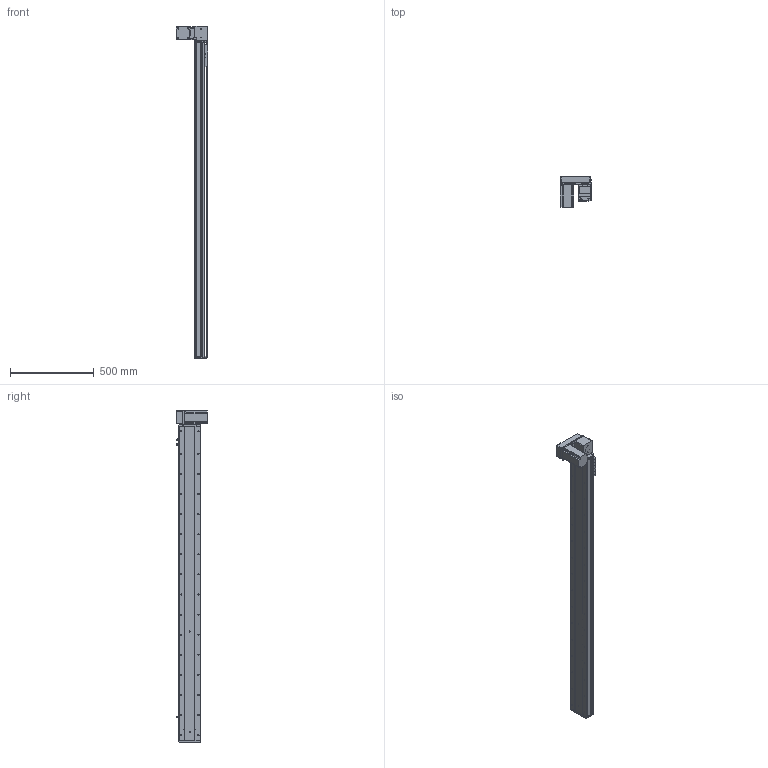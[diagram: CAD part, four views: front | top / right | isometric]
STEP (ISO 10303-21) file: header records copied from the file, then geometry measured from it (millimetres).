
FILE_DESCRIPTION (( 'STEP AP214' ), '1' );
FILE_NAME ('KSD130B-S1650-MRD-CM.STEP', '2019-11-16T01:57:07', ( '微软用户' ), ( '微软中国' ), 'SwSTEP 2.0', 'SolidWorks 2014', '' );
FILE_SCHEMA (( 'AUTOMOTIVE_DESIGN' ));
Length unit declared in the file: millimetre
Products named in the file (12): 130宽马达安装板同步带右-改镜向_默认<按加工>; 130宽马达安装板同步带半封闭; 130宽同步带安装座半封闭; 130宽端盖同步带半封闭; 130宽底板半封闭同步带-1650行程; KSD130B-S1650-MRD-CM; 130宽模组保护罩上下左右折-同步带; 台达ECMA－C20807AS伺服电机; 130宽模组马达安装板连板上下折丝杆同步带; 覜茼え100遵圉猾敕; U倰嫖萇EEㄜSX672; 130宽盖板半封闭同步带-1650行程
Assembly tree (13 placements, depth 2):
  KSD130B-S1650-MRD-CM
    130宽底板半封闭同步带-1650行程
    130宽端盖同步带半封闭
    130宽同步带安装座半封闭
    130宽马达安装板同步带半封闭
    130宽马达安装板同步带右-改镜向_默认<按加工>
    130宽盖板半封闭同步带-1650行程
    U倰嫖萇EEㄜSX672  x3
    覜茼え100遵圉猾敕
    130宽模组马达安装板连板上下折丝杆同步带
    台达ECMA－C20807AS伺服电机
    130宽模组保护罩上下左右折-同步带
Bounding box: 186 x 184.8 x 1983 mm (x, y, z)
Volume: 6719509 mm3; surface area: 1894613 mm2
Topology: 14 solids, 14 shells, 1697 faces, 4925 edges, 3121 vertices
Faces by surface type: cylinder 832, plane 646, cone 219
Entity records: 57527 total; most frequent: CARTESIAN_POINT 11050, DIRECTION 8687, ORIENTED_EDGE 8398, EDGE_CURVE 4199, AXIS2_PLACEMENT_3D 3198, VERTEX_POINT 2745, LINE 2291, VECTOR 2291
